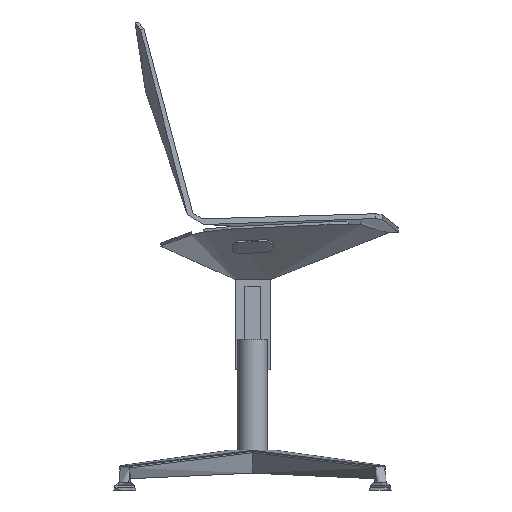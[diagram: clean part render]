
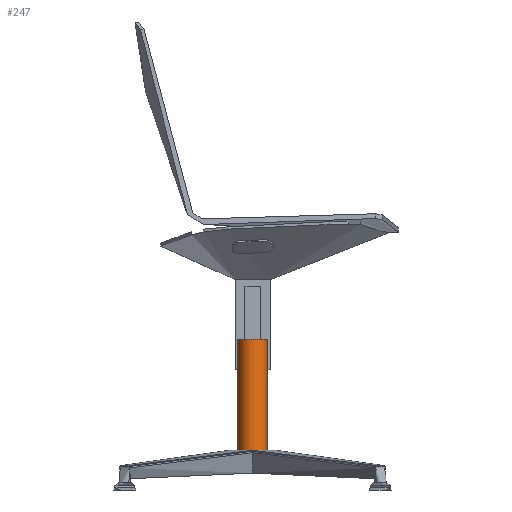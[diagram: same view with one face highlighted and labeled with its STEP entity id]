
A CAD part, left-side view. The second image highlights one B-rep face of the part: STEP entity #247.
In plain terms, the highlighted free-form (B-spline) face has degree [2, 1] with [5, 2] control points.
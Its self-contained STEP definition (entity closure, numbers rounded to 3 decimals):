
#247=ADVANCED_FACE('',(#383),#1973,.T.);
#383=FACE_OUTER_BOUND('',#519,.T.);
#519=EDGE_LOOP('',(#1071,#1072,#1073,#1074));
#1071=ORIENTED_EDGE('',*,*,#1395,.T.);
#1072=ORIENTED_EDGE('',*,*,#1394,.F.);
#1073=ORIENTED_EDGE('',*,*,#1393,.F.);
#1074=ORIENTED_EDGE('',*,*,#1392,.T.);
#1392=EDGE_CURVE('',#1912,#1913,#1711,.T.);
#1393=EDGE_CURVE('',#1912,#1911,#1712,.T.);
#1394=EDGE_CURVE('',#1911,#1914,#1713,.T.);
#1395=EDGE_CURVE('',#1913,#1914,#1714,.T.);
#1711=(
BOUNDED_CURVE()
B_SPLINE_CURVE(2,(#10991,#10992,#10993,#10994,#10995),.UNSPECIFIED.,.F.,
 .F.)
B_SPLINE_CURVE_WITH_KNOTS((3,2,3),(0.,39.27,78.54),
 .UNSPECIFIED.)
CURVE()
GEOMETRIC_REPRESENTATION_ITEM()
RATIONAL_B_SPLINE_CURVE((1.,0.707,1.,0.707,1.))
REPRESENTATION_ITEM('')
);
#1712=(
BOUNDED_CURVE()
B_SPLINE_CURVE(1,(#10996,#10997),.UNSPECIFIED.,.F.,.F.)
B_SPLINE_CURVE_WITH_KNOTS((2,2),(0.,200.),.UNSPECIFIED.)
CURVE()
GEOMETRIC_REPRESENTATION_ITEM()
RATIONAL_B_SPLINE_CURVE((1.,1.))
REPRESENTATION_ITEM('')
);
#1713=(
BOUNDED_CURVE()
B_SPLINE_CURVE(2,(#10998,#10999,#11000,#11001,#11002),.UNSPECIFIED.,.F.,
 .F.)
B_SPLINE_CURVE_WITH_KNOTS((3,2,3),(0.,39.27,78.54),
 .UNSPECIFIED.)
CURVE()
GEOMETRIC_REPRESENTATION_ITEM()
RATIONAL_B_SPLINE_CURVE((1.,0.707,1.,0.707,1.))
REPRESENTATION_ITEM('')
);
#1714=(
BOUNDED_CURVE()
B_SPLINE_CURVE(1,(#11003,#11004),.UNSPECIFIED.,.F.,.F.)
B_SPLINE_CURVE_WITH_KNOTS((2,2),(0.,200.),.UNSPECIFIED.)
CURVE()
GEOMETRIC_REPRESENTATION_ITEM()
RATIONAL_B_SPLINE_CURVE((1.,1.))
REPRESENTATION_ITEM('')
);
#1911=VERTEX_POINT('',#10987);
#1912=VERTEX_POINT('',#10988);
#1913=VERTEX_POINT('',#10989);
#1914=VERTEX_POINT('',#10990);
#1973=(
BOUNDED_SURFACE()
B_SPLINE_SURFACE(2,1,((#10967,#10968),(#10969,#10970),(#10971,#10972),(#10973,
#10974),(#10975,#10976)),.UNSPECIFIED.,.F.,.F.,.F.)
B_SPLINE_SURFACE_WITH_KNOTS((3,2,3),(2,2),(0.,39.27,78.54),
(0.,200.),.UNSPECIFIED.)
GEOMETRIC_REPRESENTATION_ITEM()
RATIONAL_B_SPLINE_SURFACE(((1.,1.),(0.707,0.707),
(1.,1.),(0.707,0.707),(1.,1.)))
REPRESENTATION_ITEM('')
SURFACE()
);
#10967=CARTESIAN_POINT('',(0.,25.,59.087));
#10968=CARTESIAN_POINT('',(0.,25.,259.087));
#10969=CARTESIAN_POINT('',(-25.,25.,59.087));
#10970=CARTESIAN_POINT('',(-25.,25.,259.087));
#10971=CARTESIAN_POINT('',(-25.,0.,59.087));
#10972=CARTESIAN_POINT('',(-25.,0.,259.087));
#10973=CARTESIAN_POINT('',(-25.,-25.,59.087));
#10974=CARTESIAN_POINT('',(-25.,-25.,259.087));
#10975=CARTESIAN_POINT('',(0.,-25.,59.087));
#10976=CARTESIAN_POINT('',(0.,-25.,259.087));
#10987=CARTESIAN_POINT('',(0.,25.,259.087));
#10988=CARTESIAN_POINT('',(0.,25.,59.087));
#10989=CARTESIAN_POINT('',(0.,-25.,59.087));
#10990=CARTESIAN_POINT('',(0.,-25.,259.087));
#10991=CARTESIAN_POINT('',(0.,25.,59.087));
#10992=CARTESIAN_POINT('',(-25.,25.,59.087));
#10993=CARTESIAN_POINT('',(-25.,0.,59.087));
#10994=CARTESIAN_POINT('',(-25.,-25.,59.087));
#10995=CARTESIAN_POINT('',(0.,-25.,59.087));
#10996=CARTESIAN_POINT('',(0.,25.,59.087));
#10997=CARTESIAN_POINT('',(0.,25.,259.087));
#10998=CARTESIAN_POINT('',(0.,25.,259.087));
#10999=CARTESIAN_POINT('',(-25.,25.,259.087));
#11000=CARTESIAN_POINT('',(-25.,0.,259.087));
#11001=CARTESIAN_POINT('',(-25.,-25.,259.087));
#11002=CARTESIAN_POINT('',(0.,-25.,259.087));
#11003=CARTESIAN_POINT('',(0.,-25.,59.087));
#11004=CARTESIAN_POINT('',(0.,-25.,259.087));
